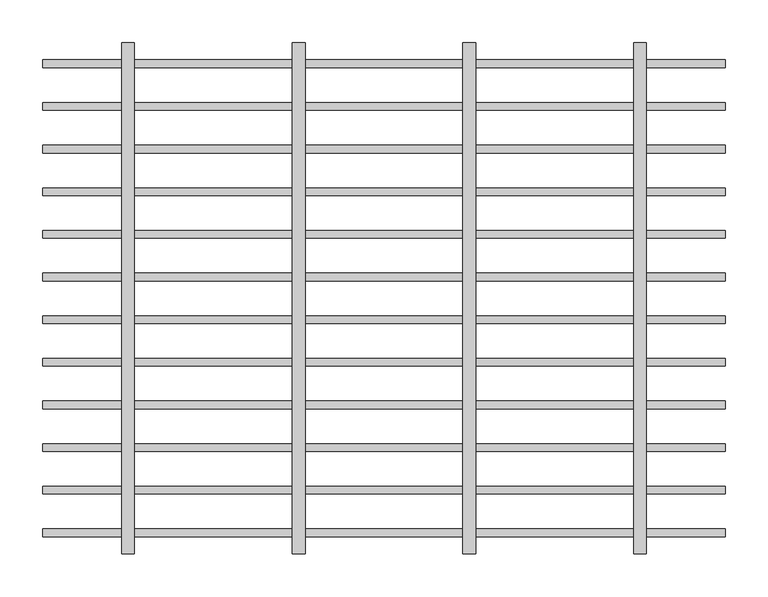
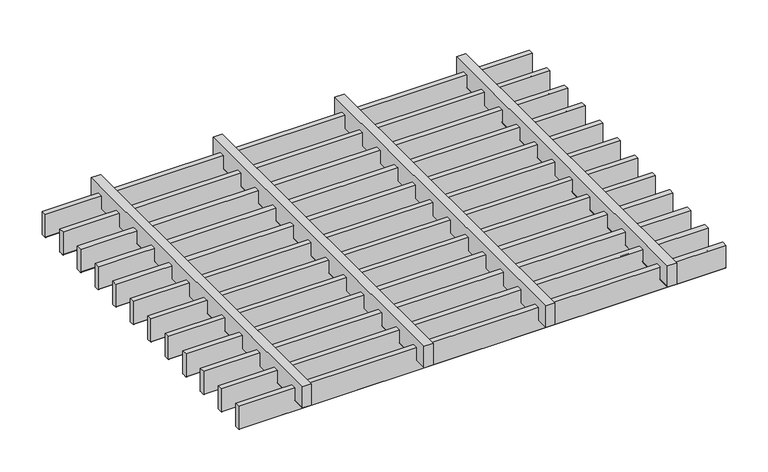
"""IFC4 building model written with IfcOpenShell, lengths in millimetres: proxy geometry, durlum_STARLAM_panel : durlum_STARLAM_9_length_cut."""

from ifc_helpers import new_model, si_unit, point, frame, frame_2d, origin, place, context, project, spatial, polyline, circle_curve, trimmed, segment, composite_curve, outline, extrude, source, transform, mapped, element, save


def generic_models_b040cb43(model_context):
    return source(origin(), model_context, "Body", "SweptSolid", [
        extrude(outline(composite_curve([segment(polyline([(-229.5, 40.0), (-220.5, 40.0), (-220.5, 0.5)]), True, "CONTINUOUS"), segment(trimmed(circle_curve(frame_2d((-221.0, 0.5)), 0.5), [point((-220.5, 0.5))], [point((-221.0, 0.0))], False, "CARTESIAN"), True, "CONTINUOUS"), segment(polyline([(-221.0, 0.0), (-229.0, 0.0)]), True, "CONTINUOUS"), segment(trimmed(circle_curve(frame_2d((-229.0, 0.5)), 0.5), [point((-229.0, 0.0))], [point((-229.5, 0.5))], False, "CARTESIAN"), True, "CONTINUOUS"), segment(polyline([(-229.5, 0.5), (-229.5, 40.0)]), True, "CONTINUOUS")], self_intersect=False)), frame((-399.875, 0.0, 0.0), z_axis=(1.0, 0.0, 0.0), x_axis=(0.0, 1.0, 0.0)), (0.0, 0.0, 1.0), 799.75),
        extrude(outline(composite_curve([segment(polyline([(-179.5, 40.0), (-170.5, 40.0), (-170.5, 0.5)]), True, "CONTINUOUS"), segment(trimmed(circle_curve(frame_2d((-171.0, 0.5)), 0.5), [point((-170.5, 0.5))], [point((-171.0, 0.0))], False, "CARTESIAN"), True, "CONTINUOUS"), segment(polyline([(-171.0, 0.0), (-179.0, 0.0)]), True, "CONTINUOUS"), segment(trimmed(circle_curve(frame_2d((-179.0, 0.5)), 0.5), [point((-179.0, 0.0))], [point((-179.5, 0.5))], False, "CARTESIAN"), True, "CONTINUOUS"), segment(polyline([(-179.5, 0.5), (-179.5, 40.0)]), True, "CONTINUOUS")], self_intersect=False)), frame((-399.875, 0.0, 0.0), z_axis=(1.0, 0.0, 0.0), x_axis=(0.0, 1.0, 0.0)), (0.0, 0.0, 1.0), 799.75),
        extrude(outline(composite_curve([segment(polyline([(-129.5, 40.0), (-120.5, 40.0), (-120.5, 0.5)]), True, "CONTINUOUS"), segment(trimmed(circle_curve(frame_2d((-121.0, 0.5)), 0.5), [point((-120.5, 0.5))], [point((-121.0, 0.0))], False, "CARTESIAN"), True, "CONTINUOUS"), segment(polyline([(-121.0, 0.0), (-129.0, 0.0)]), True, "CONTINUOUS"), segment(trimmed(circle_curve(frame_2d((-129.0, 0.5)), 0.5), [point((-129.0, 0.0))], [point((-129.5, 0.5))], False, "CARTESIAN"), True, "CONTINUOUS"), segment(polyline([(-129.5, 0.5), (-129.5, 40.0)]), True, "CONTINUOUS")], self_intersect=False)), frame((-399.875, 0.0, 0.0), z_axis=(1.0, 0.0, 0.0), x_axis=(0.0, 1.0, 0.0)), (0.0, 0.0, 1.0), 799.75),
        extrude(outline(composite_curve([segment(polyline([(-79.5, 40.0), (-70.5, 40.0), (-70.5, 0.5)]), True, "CONTINUOUS"), segment(trimmed(circle_curve(frame_2d((-71.0, 0.5)), 0.5), [point((-70.5, 0.5))], [point((-71.0, 0.0))], False, "CARTESIAN"), True, "CONTINUOUS"), segment(polyline([(-71.0, 0.0), (-79.0, 0.0)]), True, "CONTINUOUS"), segment(trimmed(circle_curve(frame_2d((-79.0, 0.5)), 0.5), [point((-79.0, 0.0))], [point((-79.5, 0.5))], False, "CARTESIAN"), True, "CONTINUOUS"), segment(polyline([(-79.5, 0.5), (-79.5, 40.0)]), True, "CONTINUOUS")], self_intersect=False)), frame((-399.875, 0.0, 0.0), z_axis=(1.0, 0.0, 0.0), x_axis=(0.0, 1.0, 0.0)), (0.0, 0.0, 1.0), 799.75),
        extrude(outline(composite_curve([segment(polyline([(54.0, 107.5), (54.0, 92.5), (17.5, 92.5)]), True, "CONTINUOUS"), segment(trimmed(circle_curve(frame_2d((17.5, 93.0)), 0.5), [point((17.5, 92.5))], [point((17.0, 93.0))], False, "CARTESIAN"), True, "CONTINUOUS"), segment(polyline([(17.0, 93.0), (17.0, 107.0)]), True, "CONTINUOUS"), segment(trimmed(circle_curve(frame_2d((17.5, 107.0)), 0.5), [point((17.0, 107.0))], [point((17.5, 107.5))], False, "CARTESIAN"), True, "CONTINUOUS"), segment(polyline([(17.5, 107.5), (54.0, 107.5)]), True, "CONTINUOUS")], self_intersect=False)), frame((0.0, -299.75, 0.0), z_axis=(0.0, 1.0, 0.0), x_axis=(0.0, 0.0, 1.0)), (0.0, 0.0, 1.0), 599.5),
        extrude(outline(composite_curve([segment(polyline([(54.0, -92.5), (54.0, -107.5), (17.5, -107.5)]), True, "CONTINUOUS"), segment(trimmed(circle_curve(frame_2d((17.5, -107.0)), 0.5), [point((17.5, -107.5))], [point((17.0, -107.0))], False, "CARTESIAN"), True, "CONTINUOUS"), segment(polyline([(17.0, -107.0), (17.0, -93.0)]), True, "CONTINUOUS"), segment(trimmed(circle_curve(frame_2d((17.5, -93.0)), 0.5), [point((17.0, -93.0))], [point((17.5, -92.5))], False, "CARTESIAN"), True, "CONTINUOUS"), segment(polyline([(17.5, -92.5), (54.0, -92.5)]), True, "CONTINUOUS")], self_intersect=False)), frame((0.0, -299.75, 0.0), z_axis=(0.0, 1.0, 0.0), x_axis=(0.0, 0.0, 1.0)), (0.0, 0.0, 1.0), 599.5),
        extrude(outline(composite_curve([segment(polyline([(-29.5, 40.0), (-20.5, 40.0), (-20.5, 0.5)]), True, "CONTINUOUS"), segment(trimmed(circle_curve(frame_2d((-21.0, 0.5)), 0.5), [point((-20.5, 0.5))], [point((-21.0, 0.0))], False, "CARTESIAN"), True, "CONTINUOUS"), segment(polyline([(-21.0, 0.0), (-29.0, 0.0)]), True, "CONTINUOUS"), segment(trimmed(circle_curve(frame_2d((-29.0, 0.5)), 0.5), [point((-29.0, 0.0))], [point((-29.5, 0.5))], False, "CARTESIAN"), True, "CONTINUOUS"), segment(polyline([(-29.5, 0.5), (-29.5, 40.0)]), True, "CONTINUOUS")], self_intersect=False)), frame((-399.875, 0.0, 0.0), z_axis=(1.0, 0.0, 0.0), x_axis=(0.0, 1.0, 0.0)), (0.0, 0.0, 1.0), 799.75),
        extrude(outline(composite_curve([segment(polyline([(20.5, 40.0), (29.5, 40.0), (29.5, 0.5)]), True, "CONTINUOUS"), segment(trimmed(circle_curve(frame_2d((29.0, 0.5)), 0.5), [point((29.5, 0.5))], [point((29.0, 0.0))], False, "CARTESIAN"), True, "CONTINUOUS"), segment(polyline([(29.0, 0.0), (21.0, 0.0)]), True, "CONTINUOUS"), segment(trimmed(circle_curve(frame_2d((21.0, 0.5)), 0.5), [point((21.0, 0.0))], [point((20.5, 0.5))], False, "CARTESIAN"), True, "CONTINUOUS"), segment(polyline([(20.5, 0.5), (20.5, 40.0)]), True, "CONTINUOUS")], self_intersect=False)), frame((-399.875, 0.0, 0.0), z_axis=(1.0, 0.0, 0.0), x_axis=(0.0, 1.0, 0.0)), (0.0, 0.0, 1.0), 799.75),
        extrude(outline(composite_curve([segment(polyline([(70.5, 40.0), (79.5, 40.0), (79.5, 0.5)]), True, "CONTINUOUS"), segment(trimmed(circle_curve(frame_2d((79.0, 0.5)), 0.5), [point((79.5, 0.5))], [point((79.0, 0.0))], False, "CARTESIAN"), True, "CONTINUOUS"), segment(polyline([(79.0, 0.0), (71.0, 0.0)]), True, "CONTINUOUS"), segment(trimmed(circle_curve(frame_2d((71.0, 0.5)), 0.5), [point((71.0, 0.0))], [point((70.5, 0.5))], False, "CARTESIAN"), True, "CONTINUOUS"), segment(polyline([(70.5, 0.5), (70.5, 40.0)]), True, "CONTINUOUS")], self_intersect=False)), frame((-399.875, 0.0, 0.0), z_axis=(1.0, 0.0, 0.0), x_axis=(0.0, 1.0, 0.0)), (0.0, 0.0, 1.0), 799.75),
        extrude(outline(composite_curve([segment(polyline([(120.5, 40.0), (129.5, 40.0), (129.5, 0.5)]), True, "CONTINUOUS"), segment(trimmed(circle_curve(frame_2d((129.0, 0.5)), 0.5), [point((129.5, 0.5))], [point((129.0, 0.0))], False, "CARTESIAN"), True, "CONTINUOUS"), segment(polyline([(129.0, 0.0), (121.0, 0.0)]), True, "CONTINUOUS"), segment(trimmed(circle_curve(frame_2d((121.0, 0.5)), 0.5), [point((121.0, 0.0))], [point((120.5, 0.5))], False, "CARTESIAN"), True, "CONTINUOUS"), segment(polyline([(120.5, 0.5), (120.5, 40.0)]), True, "CONTINUOUS")], self_intersect=False)), frame((-399.875, 0.0, 0.0), z_axis=(1.0, 0.0, 0.0), x_axis=(0.0, 1.0, 0.0)), (0.0, 0.0, 1.0), 799.75),
        extrude(outline(composite_curve([segment(polyline([(170.5, 40.0), (179.5, 40.0), (179.5, 0.5)]), True, "CONTINUOUS"), segment(trimmed(circle_curve(frame_2d((179.0, 0.5)), 0.5), [point((179.5, 0.5))], [point((179.0, 0.0))], False, "CARTESIAN"), True, "CONTINUOUS"), segment(polyline([(179.0, 0.0), (171.0, 0.0)]), True, "CONTINUOUS"), segment(trimmed(circle_curve(frame_2d((171.0, 0.5)), 0.5), [point((171.0, 0.0))], [point((170.5, 0.5))], False, "CARTESIAN"), True, "CONTINUOUS"), segment(polyline([(170.5, 0.5), (170.5, 40.0)]), True, "CONTINUOUS")], self_intersect=False)), frame((-399.875, 0.0, 0.0), z_axis=(1.0, 0.0, 0.0), x_axis=(0.0, 1.0, 0.0)), (0.0, 0.0, 1.0), 799.75),
        extrude(outline(composite_curve([segment(polyline([(220.5, 40.0), (229.5, 40.0), (229.5, 0.5)]), True, "CONTINUOUS"), segment(trimmed(circle_curve(frame_2d((229.0, 0.5)), 0.5), [point((229.5, 0.5))], [point((229.0, 0.0))], False, "CARTESIAN"), True, "CONTINUOUS"), segment(polyline([(229.0, 0.0), (221.0, 0.0)]), True, "CONTINUOUS"), segment(trimmed(circle_curve(frame_2d((221.0, 0.5)), 0.5), [point((221.0, 0.0))], [point((220.5, 0.5))], False, "CARTESIAN"), True, "CONTINUOUS"), segment(polyline([(220.5, 0.5), (220.5, 40.0)]), True, "CONTINUOUS")], self_intersect=False)), frame((-399.875, 0.0, 0.0), z_axis=(1.0, 0.0, 0.0), x_axis=(0.0, 1.0, 0.0)), (0.0, 0.0, 1.0), 799.75),
        extrude(outline(composite_curve([segment(polyline([(54.0, 307.5), (54.0, 292.5), (17.5, 292.5)]), True, "CONTINUOUS"), segment(trimmed(circle_curve(frame_2d((17.5, 293.0)), 0.5), [point((17.5, 292.5))], [point((17.0, 293.0))], False, "CARTESIAN"), True, "CONTINUOUS"), segment(polyline([(17.0, 293.0), (17.0, 307.0)]), True, "CONTINUOUS"), segment(trimmed(circle_curve(frame_2d((17.5, 307.0)), 0.5), [point((17.0, 307.0))], [point((17.5, 307.5))], False, "CARTESIAN"), True, "CONTINUOUS"), segment(polyline([(17.5, 307.5), (54.0, 307.5)]), True, "CONTINUOUS")], self_intersect=False)), frame((0.0, -299.75, 0.0), z_axis=(0.0, 1.0, 0.0), x_axis=(0.0, 0.0, 1.0)), (0.0, 0.0, 1.0), 599.5),
        extrude(outline(composite_curve([segment(polyline([(54.0, -292.5), (54.0, -307.5), (17.5, -307.5)]), True, "CONTINUOUS"), segment(trimmed(circle_curve(frame_2d((17.5, -307.0)), 0.5), [point((17.5, -307.5))], [point((17.0, -307.0))], False, "CARTESIAN"), True, "CONTINUOUS"), segment(polyline([(17.0, -307.0), (17.0, -293.0)]), True, "CONTINUOUS"), segment(trimmed(circle_curve(frame_2d((17.5, -293.0)), 0.5), [point((17.0, -293.0))], [point((17.5, -292.5))], False, "CARTESIAN"), True, "CONTINUOUS"), segment(polyline([(17.5, -292.5), (54.0, -292.5)]), True, "CONTINUOUS")], self_intersect=False)), frame((0.0, -299.75, 0.0), z_axis=(0.0, 1.0, 0.0), x_axis=(0.0, 0.0, 1.0)), (0.0, 0.0, 1.0), 599.5),
        extrude(outline(composite_curve([segment(polyline([(-279.5, 40.0), (-270.5, 40.0), (-270.5, 0.5)]), True, "CONTINUOUS"), segment(trimmed(circle_curve(frame_2d((-271.0, 0.5)), 0.5), [point((-270.5, 0.5))], [point((-271.0, 0.0))], False, "CARTESIAN"), True, "CONTINUOUS"), segment(polyline([(-271.0, 0.0), (-279.0, 0.0)]), True, "CONTINUOUS"), segment(trimmed(circle_curve(frame_2d((-279.0, 0.5)), 0.5), [point((-279.0, 0.0))], [point((-279.5, 0.5))], False, "CARTESIAN"), True, "CONTINUOUS"), segment(polyline([(-279.5, 0.5), (-279.5, 40.0)]), True, "CONTINUOUS")], self_intersect=False)), frame((-399.875, 0.0, 0.0), z_axis=(1.0, 0.0, 0.0), x_axis=(0.0, 1.0, 0.0)), (0.0, 0.0, 1.0), 799.75),
        extrude(outline(composite_curve([segment(polyline([(270.5, 40.0), (279.5, 40.0), (279.5, 0.5)]), True, "CONTINUOUS"), segment(trimmed(circle_curve(frame_2d((279.0, 0.5)), 0.5), [point((279.5, 0.5))], [point((279.0, 0.0))], False, "CARTESIAN"), True, "CONTINUOUS"), segment(polyline([(279.0, 0.0), (271.0, 0.0)]), True, "CONTINUOUS"), segment(trimmed(circle_curve(frame_2d((271.0, 0.5)), 0.5), [point((271.0, 0.0))], [point((270.5, 0.5))], False, "CARTESIAN"), True, "CONTINUOUS"), segment(polyline([(270.5, 0.5), (270.5, 40.0)]), True, "CONTINUOUS")], self_intersect=False)), frame((-399.875, 0.0, 0.0), z_axis=(1.0, 0.0, 0.0), x_axis=(0.0, 1.0, 0.0)), (0.0, 0.0, 1.0), 799.75),
    ])


if __name__ == "__main__":
    model = new_model("IFC4")
    model_context = context("Model", 3, world=origin())
    ifc_project = project(units=[si_unit("LENGTHUNIT", "METRE", prefix="MILLI")], contexts=[model_context])
    site = spatial("IfcSite", under=ifc_project)
    building = spatial("IfcBuilding", under=site)
    placement = place(None, origin())
    generic_models_shape = generic_models_b040cb43(model_context)
    element("IfcBuildingElementProxy", 1, Name="durlum_STARLAM_panel : durlum_STARLAM_9_length_cut", ObjectType="durlum_STARLAM_panel : durlum_STARLAM_9_length_cut", at=placement, inside=building, context=model_context, shape_type="MappedRepresentation", body=[
        mapped(generic_models_shape, transform((0.0, 0.0, 0.0), x_axis=(1.0, 0.0, 0.0), y_axis=(0.0, 1.0, 0.0), z_axis=(0.0, 0.0, 1.0))),
    ])
    save(model, "model.ifc")
